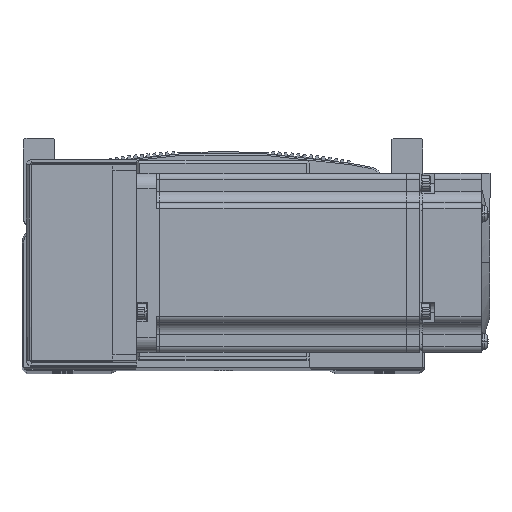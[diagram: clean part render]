
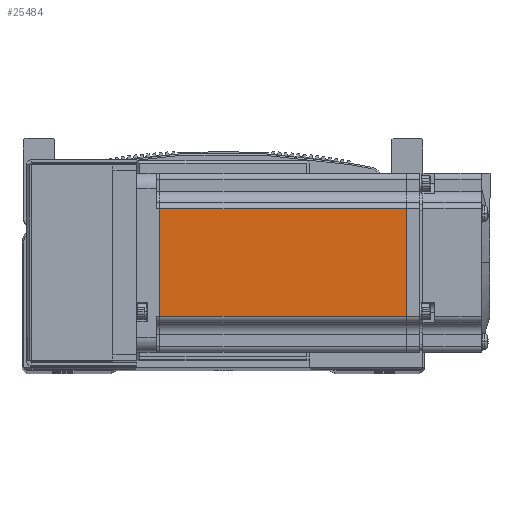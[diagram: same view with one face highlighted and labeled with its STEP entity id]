
A CAD part, top view. The second image highlights one B-rep face of the part: STEP entity #25484.
In plain terms, the highlighted planar face has unit normal (0, 0, 1) as drawn and (0, 0, -1) by its records, which use the part's own axes.
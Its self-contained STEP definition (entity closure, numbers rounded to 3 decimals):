
#4438 = AXIS2_PLACEMENT_3D ( 'NONE', #23261, #23273, #23265 ) ;
#23261 = CARTESIAN_POINT ( 'NONE',  ( -6.5, 25., -30. ) ) ;
#23264 = PLANE ( 'NONE',  #4438 ) ;
#23265 = DIRECTION ( 'NONE',  ( -1., 0., 0. ) ) ;
#23273 = DIRECTION ( 'NONE',  ( 0., 0., -1. ) ) ;
#25484 = ADVANCED_FACE ( 'NONE', ( #39928 ), #23264, .T. ) ;
#32787 = CARTESIAN_POINT ( 'NONE',  ( -7.75, -18., -30. ) ) ;
#32808 = CARTESIAN_POINT ( 'NONE',  ( -7.75, 18., -30. ) ) ;
#32828 = CARTESIAN_POINT ( 'NONE',  ( -90.45, 18., -30. ) ) ;
#32907 = CARTESIAN_POINT ( 'NONE',  ( -90.45, -18., -30. ) ) ;
#39928 = FACE_OUTER_BOUND ( 'NONE', #59705, .T. ) ;
#40159 = EDGE_CURVE ( 'NONE', #61351, #61342, #40859, .T. ) ;
#40171 = EDGE_CURVE ( 'NONE', #61433, #61351, #40871, .T. ) ;
#40191 = EDGE_CURVE ( 'NONE', #61368, #61433, #40956, .T. ) ;
#40207 = EDGE_CURVE ( 'NONE', #61342, #61368, #40950, .T. ) ;
#40850 = VECTOR ( 'NONE', #42485, 1000. ) ;
#40859 = LINE ( 'NONE', #42494, #40863 ) ;
#40863 = VECTOR ( 'NONE', #42481, 1000. ) ;
#40871 = LINE ( 'NONE', #42445, #40850 ) ;
#40947 = VECTOR ( 'NONE', #42584, 1000. ) ;
#40950 = LINE ( 'NONE', #42629, #40991 ) ;
#40956 = LINE ( 'NONE', #42536, #40947 ) ;
#40991 = VECTOR ( 'NONE', #42604, 1000. ) ;
#42445 = CARTESIAN_POINT ( 'NONE',  ( -90.45, 25., -30. ) ) ;
#42481 = DIRECTION ( 'NONE',  ( 1., 0., 0. ) ) ;
#42485 = DIRECTION ( 'NONE',  ( 0., 1., 0. ) ) ;
#42494 = CARTESIAN_POINT ( 'NONE',  ( -6.5, 18., -30. ) ) ;
#42536 = CARTESIAN_POINT ( 'NONE',  ( -6.5, -18., -30. ) ) ;
#42584 = DIRECTION ( 'NONE',  ( -1., 0., 0. ) ) ;
#42604 = DIRECTION ( 'NONE',  ( 0., -1., 0. ) ) ;
#42629 = CARTESIAN_POINT ( 'NONE',  ( -7.75, 25., -30. ) ) ;
#59705 = EDGE_LOOP ( 'NONE', ( #75394, #75495, #75511, #75419 ) ) ;
#61342 = VERTEX_POINT ( 'NONE', #32808 ) ;
#61351 = VERTEX_POINT ( 'NONE', #32828 ) ;
#61368 = VERTEX_POINT ( 'NONE', #32787 ) ;
#61433 = VERTEX_POINT ( 'NONE', #32907 ) ;
#75394 = ORIENTED_EDGE ( 'NONE', *, *, #40207, .T. ) ;
#75419 = ORIENTED_EDGE ( 'NONE', *, *, #40159, .T. ) ;
#75495 = ORIENTED_EDGE ( 'NONE', *, *, #40191, .T. ) ;
#75511 = ORIENTED_EDGE ( 'NONE', *, *, #40171, .T. ) ;
